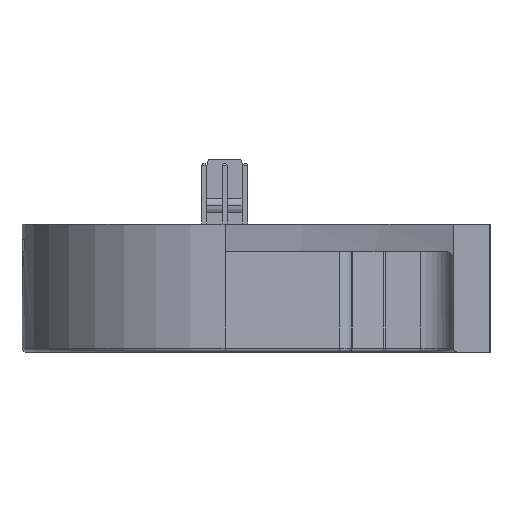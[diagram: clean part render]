
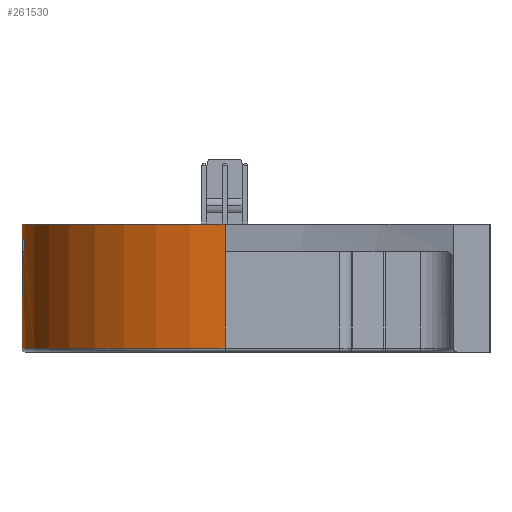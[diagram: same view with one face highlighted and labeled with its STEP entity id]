
A CAD part, left-side view. The second image highlights one B-rep face of the part: STEP entity #261530.
In plain terms, the highlighted cylindrical face has radius 24.9 mm (diameter 49.8 mm), a partial arc.
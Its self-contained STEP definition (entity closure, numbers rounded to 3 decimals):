
#52630=CARTESIAN_POINT('',(0.,24.9,-1.85));
#52640=VERTEX_POINT('',#52630);
#52710=CARTESIAN_POINT('',(0.,24.9,-12.2));
#52720=VERTEX_POINT('',#52710);
#66950=CARTESIAN_POINT('',(-4.,24.577,-1.85));
#66960=VERTEX_POINT('',#66950);
#66990=CARTESIAN_POINT('',(0.,0.,
-12.2));
#67000=DIRECTION('',(-0.933,0.,-0.36));
#67010=DIRECTION('',(0.36,0.,-0.933));
#67020=AXIS2_PLACEMENT_3D('',#66990,#67000,#67010);
#67030=ELLIPSE('',#67020,69.073,24.9);
#67040=EDGE_CURVE('',#66960,#52720,#67030,.T.);
#76020=CARTESIAN_POINT('',(-24.9,0.,-3.35));
#76030=VERTEX_POINT('',#76020);
#84120=CARTESIAN_POINT('',(-24.9,0.,-15.2));
#84130=DIRECTION('',(0.,0.,1.));
#84140=VECTOR('',#84130,1.);
#84150=LINE('',#84120,#84140);
#84160=CARTESIAN_POINT('',(-24.9,0.,-15.2));
#84170=VERTEX_POINT('',#84160);
#84180=EDGE_CURVE('',#84170,#76030,#84150,.T.);
#100750=CARTESIAN_POINT('',(24.9,0.,-3.35));
#100760=VERTEX_POINT('',#100750);
#100790=CARTESIAN_POINT('',(24.9,0.,-15.2));
#100800=DIRECTION('',(0.,0.,1.));
#100810=VECTOR('',#100800,1.);
#100820=LINE('',#100790,#100810);
#100830=CARTESIAN_POINT('',(24.9,0.,-15.2));
#100840=VERTEX_POINT('',#100830);
#100850=EDGE_CURVE('',#100840,#100760,#100820,.T.);
#103320=CARTESIAN_POINT('',(4.,24.577,-1.85));
#103330=VERTEX_POINT('',#103320);
#103360=CARTESIAN_POINT('',(0.,0.,
-1.85));
#103370=DIRECTION('',(0.,0.,1.));
#103380=DIRECTION('',(1.,0.,0.));
#103390=AXIS2_PLACEMENT_3D('',#103360,#103370,#103380);
#103400=CIRCLE('',#103390,24.9);
#103410=EDGE_CURVE('',#103330,#52640,#103400,.T.);
#110650=CARTESIAN_POINT('',(0.,0.,
-15.2));
#110660=DIRECTION('',(0.,0.,1.));
#110670=DIRECTION('',(1.,0.,0.));
#110680=AXIS2_PLACEMENT_3D('',#110650,#110660,#110670);
#110690=CIRCLE('',#110680,24.9);
#110700=EDGE_CURVE('',#100840,#84170,#110690,.T.);
#232930=CARTESIAN_POINT('',(24.9,0.,0.));
#232940=VERTEX_POINT('',#232930);
#233120=CARTESIAN_POINT('',(-24.9,0.,0.));
#233130=VERTEX_POINT('',#233120);
#233160=CARTESIAN_POINT('',(0.,0.,0.
));
#233170=DIRECTION('',(0.,0.,1.));
#233180=DIRECTION('',(1.,0.,0.));
#233190=AXIS2_PLACEMENT_3D('',#233160,#233170,#233180);
#233200=CIRCLE('',#233190,24.9);
#233210=EDGE_CURVE('',#232940,#233130,#233200,.T.);
#260780=EDGE_CURVE('',#100760,#232940,#100820,.T.);
#261260=CARTESIAN_POINT('',(0.,0.,
-15.2));
#261270=DIRECTION('',(0.,0.,1.));
#261280=DIRECTION('',(1.,0.,0.));
#261290=AXIS2_PLACEMENT_3D('',#261260,#261270,#261280);
#261300=CYLINDRICAL_SURFACE('',#261290,24.9);
#261310=EDGE_CURVE('',#76030,#233130,#84150,.T.);
#261320=ORIENTED_EDGE('',*,*,#261310,.T.);
#261330=ORIENTED_EDGE('',*,*,#84180,.T.);
#261340=ORIENTED_EDGE('',*,*,#110700,.T.);
#261350=ORIENTED_EDGE('',*,*,#100850,.F.);
#261360=ORIENTED_EDGE('',*,*,#260780,.F.);
#261370=ORIENTED_EDGE('',*,*,#233210,.F.);
#261380=EDGE_LOOP('',(#261370,#261360,#261350,#261340,#261330,#261320));
#261390=FACE_OUTER_BOUND('',#261380,.T.);
#261400=ORIENTED_EDGE('',*,*,#67040,.T.);
#261410=EDGE_CURVE('',#52640,#66960,#103400,.T.);
#261420=ORIENTED_EDGE('',*,*,#261410,.T.);
#261430=ORIENTED_EDGE('',*,*,#103410,.T.);
#261440=CARTESIAN_POINT('',(0.,0.,
-12.2));
#261450=DIRECTION('',(0.933,0.,-0.36));
#261460=DIRECTION('',(0.36,0.,0.933));
#261470=AXIS2_PLACEMENT_3D('',#261440,#261450,#261460);
#261480=ELLIPSE('',#261470,69.073,24.9);
#261490=EDGE_CURVE('',#52720,#103330,#261480,.T.);
#261500=ORIENTED_EDGE('',*,*,#261490,.T.);
#261510=EDGE_LOOP('',(#261500,#261430,#261420,#261400));
#261520=FACE_BOUND('',#261510,.T.);
#261530=ADVANCED_FACE('',(#261390,#261520),#261300,.T.);
